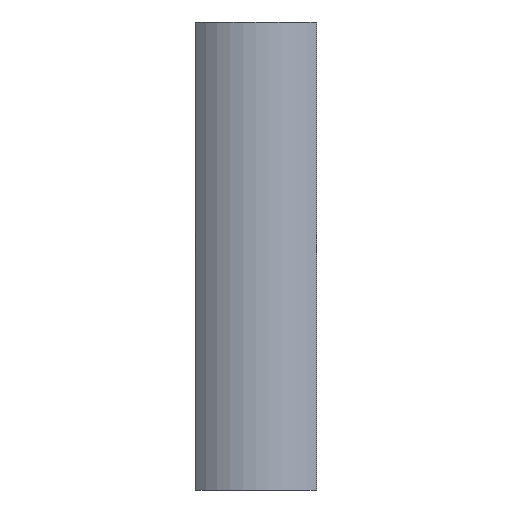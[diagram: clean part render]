
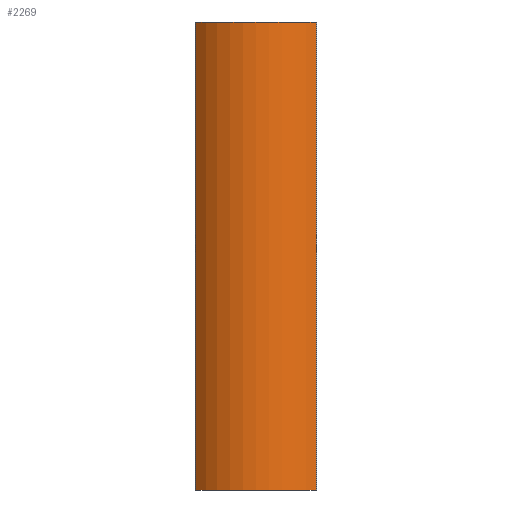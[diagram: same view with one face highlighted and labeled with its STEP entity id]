
A CAD part, front view. The second image highlights one B-rep face of the part: STEP entity #2269.
In plain terms, the highlighted cylindrical face has radius 45 mm (diameter 90 mm), a partial arc.
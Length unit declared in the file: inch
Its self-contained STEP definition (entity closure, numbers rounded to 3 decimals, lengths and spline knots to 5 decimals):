
#157=CARTESIAN_POINT('',(0.,0.,0.));
#158=DIRECTION('',(0.,0.,1.));
#159=DIRECTION('',(-0.713,-0.702,0.));
#160=AXIS2_PLACEMENT_3D('',#157,#158,#159);
#577=CARTESIAN_POINT('',(0.,0.,9.84));
#578=DIRECTION('',(0.,0.,1.));
#579=DIRECTION('',(-0.713,-0.702,0.));
#580=AXIS2_PLACEMENT_3D('',#577,#578,#579);
#918=DIRECTION('',(0.,0.,1.));
#919=VECTOR('',#918,9.84);
#920=CARTESIAN_POINT('',(1.26256,-1.24286,0.));
#921=LINE('',#920,#919);
#922=DIRECTION('',(0.,0.,1.));
#923=VECTOR('',#922,9.84);
#924=CARTESIAN_POINT('',(-1.26256,-1.24286,0.));
#925=LINE('',#924,#923);
#1159=CARTESIAN_POINT('',(-1.26256,-1.24286,0.));
#1161=VERTEX_POINT('',#1159);
#1162=CARTESIAN_POINT('',(1.26256,-1.24286,0.));
#1163=VERTEX_POINT('',#1162);
#1319=CARTESIAN_POINT('',(-1.26256,-1.24286,9.84));
#1321=VERTEX_POINT('',#1319);
#1322=CARTESIAN_POINT('',(1.26256,-1.24286,9.84));
#1323=VERTEX_POINT('',#1322);
#2258=CARTESIAN_POINT('',(0.,0.,0.));
#2259=DIRECTION('',(0.,0.,1.));
#2260=DIRECTION('',(1.,0.,0.));
#2261=AXIS2_PLACEMENT_3D('',#2258,#2259,#2260);
#2262=CYLINDRICAL_SURFACE('',#2261,1.77165);
#2263=ORIENTED_EDGE('',*,*,#1429,.F.);
#2264=ORIENTED_EDGE('',*,*,#2175,.T.);
#2265=ORIENTED_EDGE('',*,*,#1659,.T.);
#2266=ORIENTED_EDGE('',*,*,#2251,.F.);
#2267=EDGE_LOOP('',(#2263,#2264,#2265,#2266));
#2268=FACE_OUTER_BOUND('',#2267,.F.);
#161=CIRCLE('',#160,1.77165);
#581=CIRCLE('',#580,1.77165);
#1429=EDGE_CURVE('',#1161,#1163,#161,.T.);
#1659=EDGE_CURVE('',#1321,#1323,#581,.T.);
#2175=EDGE_CURVE('',#1161,#1321,#925,.T.);
#2251=EDGE_CURVE('',#1163,#1323,#921,.T.);
#2269=ADVANCED_FACE('',(#2268),#2262,.T.);
